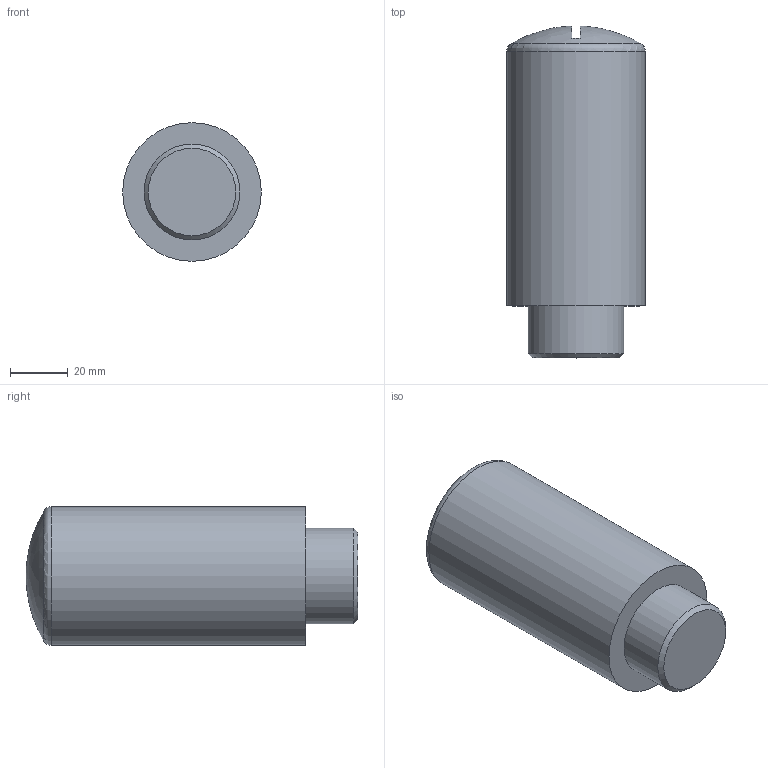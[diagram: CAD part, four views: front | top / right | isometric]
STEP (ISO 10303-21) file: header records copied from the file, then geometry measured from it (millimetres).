
FILE_DESCRIPTION( ( 'STEP AP214' ), '1' );
FILE_NAME( 'p:/temp/worker_7/temp/exporttempdir_2732_587_cloUY/format_0/W0970530067.stp', '2021-12-09T08:35:07', ( 'License CC BY-ND 4.0' ), ( 'CADENAS' ), ' ', 'PARTsolutions', ' ' );
FILE_SCHEMA( ( 'AUTOMOTIVE_DESIGN { 1 0 10303 214 1 1 1 1 }' ) );
Length unit declared in the file: millimetre
Products named in the file (1): _W0970530067
Bounding box: 48 x 114.96 x 48 mm (x, y, z)
Volume: 184329.4 mm3; surface area: 19281.4 mm2
Topology: 1 solids, 1 shells, 10 faces, 18 edges, 11 vertices
Faces by surface type: plane 5, cylinder 2, cone 1, torus 1, bspline 1
Full cylindrical faces by diameter (mm): 33.249 x1, 48 x1
Entity records: 357 total; most frequent: CARTESIAN_POINT 90, DIRECTION 38, ORIENTED_EDGE 24, AXIS2_PLACEMENT_3D 18, EDGE_LOOP 16, FACE_OUTER_BOUND 14, EDGE_CURVE 12, STYLED_ITEM 10
